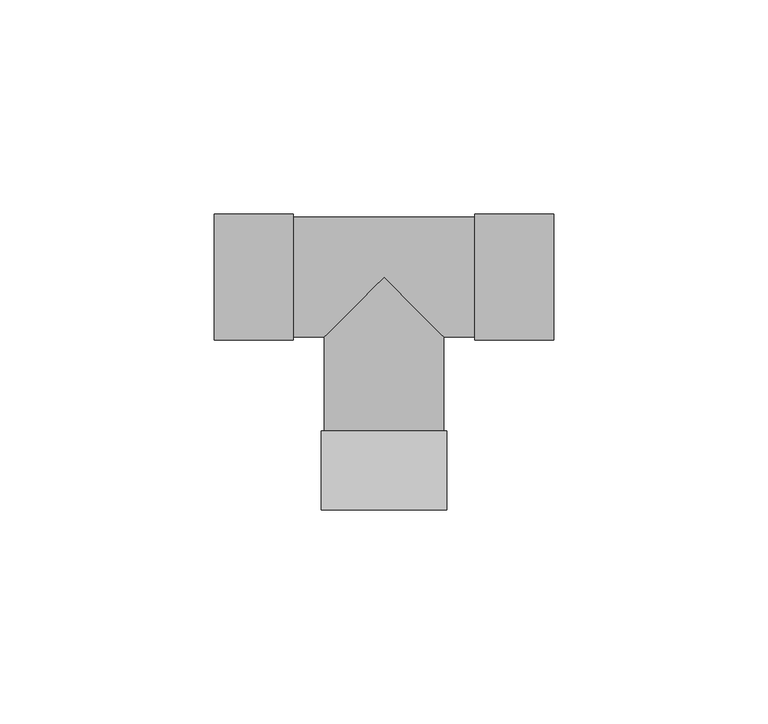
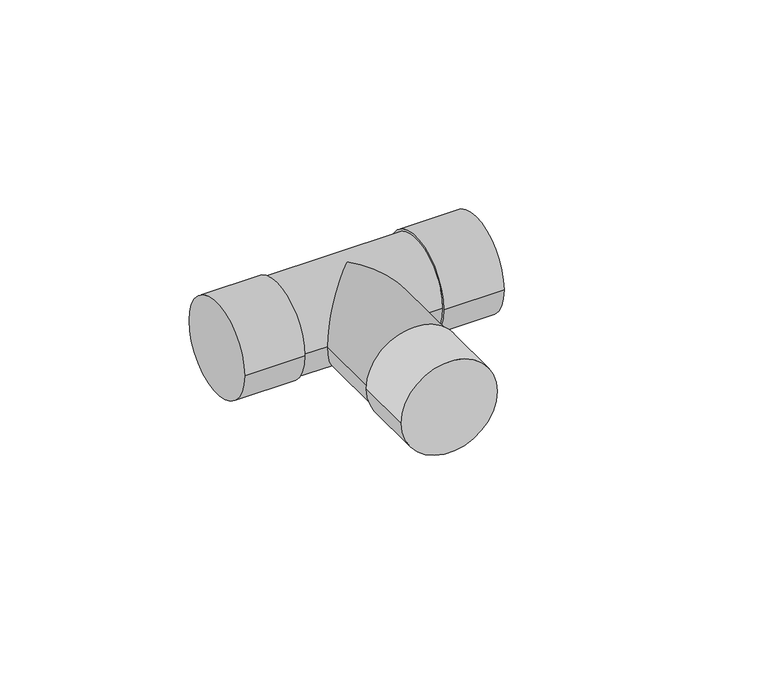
"""IFC4 building model written with IfcOpenShell, lengths in millimetres: pipe fitting geometry, Tê - Soldado - CU : Padrão."""

from ifc_helpers import new_model, si_unit, frame, origin, place, context, project, spatial, circle_curve, ellipse_curve, source, transform, mapped, element, save
from ifc_brep_helpers import plane_surface, cylinder_surface, advanced_brep


def pipe_fitting_81a84823(model_context):
    return source(origin(), model_context, "Body", "AdvancedBrep", [
        advanced_brep(
        [(14.6995662, -54.3501173, 0.0), (-14.7004338, -54.3498827, 0.0), (14.699713, -35.9501173, 0.0), (-14.700287, -35.9498827, 0.0), (13.999713, -35.9501117, 0.0), (-14.000287, -35.9498882, 0.0), (-39.62, -14.7, 0.0), (-39.62, 14.7, 0.0), (-21.22, -14.7, 0.0), (-21.22, 14.7, 0.0), (-21.22, -14.0, 0.0), (-21.22, 14.0, 0.0), (21.22, 14.0, 0.0), (-14.0001118, -14.0, 0.0), (0.0, 0.0, 14.0), (13.9998882, -14.0, 0.0), (21.22, -14.0, 0.0), (0.0, 0.0, -14.0), (21.22, -14.7, 0.0), (21.22, 14.7, 0.0), (39.62, -14.7, 0.0), (39.62, 14.7, 0.0)],
        [
            (0, 1, circle_curve(frame((-0.0004338, -54.35, 0.0), z_axis=(-7.982217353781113e-06, -0.9999999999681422, 0.0), x_axis=(-0.9999999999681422, 7.982217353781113e-06, 0.0)), 14.7)),
            (1, 0, circle_curve(frame((-0.0004338, -54.35, 0.0), z_axis=(-7.982217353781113e-06, -0.9999999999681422, 0.0), x_axis=(-0.9999999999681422, 7.982217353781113e-06, 0.0)), 14.7)),
            (2, 3, circle_curve(frame((-0.000287, -35.95, 0.0), z_axis=(7.982217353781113e-06, 0.9999999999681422, 0.0), x_axis=(-0.9999999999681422, 7.982217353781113e-06, 0.0)), 14.7)),
            (3, 2, circle_curve(frame((-0.000287, -35.95, 0.0), z_axis=(7.982217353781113e-06, 0.9999999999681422, 0.0), x_axis=(-0.9999999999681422, 7.982217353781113e-06, 0.0)), 14.7)),
            (4, 5, circle_curve(frame((-0.000287, -35.95, 0.0), z_axis=(-7.982217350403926e-06, -0.9999999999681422, 0.0), x_axis=(0.9999999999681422, -7.982217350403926e-06, 0.0)), 14.0)),
            (5, 4, circle_curve(frame((-0.000287, -35.95, 0.0), z_axis=(-7.982217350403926e-06, -0.9999999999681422, 0.0), x_axis=(0.9999999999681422, -7.982217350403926e-06, 0.0)), 14.0)),
            (0, 2),
            (3, 1),
            (6, 7, circle_curve(frame((-39.62, 0.0, 0.0), z_axis=(-1.0, 0.0, 0.0), x_axis=(0.0, 1.0, 0.0)), 14.7)),
            (7, 6, circle_curve(frame((-39.62, 0.0, 0.0), z_axis=(-1.0, 0.0, 0.0), x_axis=(0.0, 1.0, 0.0)), 14.7)),
            (8, 9, circle_curve(frame((-21.22, 0.0, 0.0), z_axis=(1.0, 0.0, 0.0), x_axis=(0.0, 1.0, 0.0)), 14.7)),
            (9, 8, circle_curve(frame((-21.22, 0.0, 0.0), z_axis=(1.0, 0.0, 0.0), x_axis=(0.0, 1.0, 0.0)), 14.7)),
            (10, 11, circle_curve(frame((-21.22, 0.0, 0.0), z_axis=(-1.0, 0.0, 0.0), x_axis=(0.0, 1.0, 0.0)), 14.0)),
            (11, 10, circle_curve(frame((-21.22, 0.0, 0.0), z_axis=(-1.0, 0.0, 0.0), x_axis=(0.0, 1.0, 0.0)), 14.0)),
            (6, 8),
            (9, 7),
            (12, 11),
            (10, 13),
            (13, 14, ellipse_curve(frame((0.0, 0.0, 0.0), z_axis=(-0.7071039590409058, 0.7071096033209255, 0.0), x_axis=(-0.7071096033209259, -0.707103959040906, 0.0)), 19.7990689, 14.0)),
            (14, 15, ellipse_curve(frame((0.0, 0.0, 0.0), z_axis=(0.7071096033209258, 0.7071039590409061, 0.0), x_axis=(-0.7071039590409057, 0.7071096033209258, 0.0)), 19.7989109, 14.0)),
            (15, 16),
            (16, 12, circle_curve(frame((21.22, 0.0, 0.0), z_axis=(-1.0, 0.0, 0.0), x_axis=(0.0, 1.0, 0.0)), 14.0)),
            (12, 16, circle_curve(frame((21.22, 0.0, 0.0), z_axis=(-1.0, 0.0, 0.0), x_axis=(0.0, 1.0, 0.0)), 14.0)),
            (15, 17, ellipse_curve(frame((0.0, 0.0, 0.0), z_axis=(0.7071096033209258, 0.7071039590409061, 0.0), x_axis=(-0.7071039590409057, 0.7071096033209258, 0.0)), 19.7989109, 14.0)),
            (17, 13, ellipse_curve(frame((0.0, 0.0, 0.0), z_axis=(-0.7071039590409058, 0.7071096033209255, 0.0), x_axis=(-0.7071096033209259, -0.707103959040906, 0.0)), 19.7990689, 14.0)),
            (18, 19, circle_curve(frame((21.22, 0.0, 0.0), z_axis=(-1.0, 0.0, 0.0), x_axis=(0.0, 1.0, 0.0)), 14.7)),
            (19, 18, circle_curve(frame((21.22, 0.0, 0.0), z_axis=(-1.0, 0.0, 0.0), x_axis=(0.0, 1.0, 0.0)), 14.7)),
            (20, 21, circle_curve(frame((39.62, 0.0, 0.0), z_axis=(1.0, 0.0, 0.0), x_axis=(0.0, 1.0, 0.0)), 14.7)),
            (21, 20, circle_curve(frame((39.62, 0.0, 0.0), z_axis=(1.0, 0.0, 0.0), x_axis=(0.0, 1.0, 0.0)), 14.7)),
            (18, 20),
            (21, 19),
            (4, 15),
            (13, 5),
        ],
        [
            plane_surface(frame((-0.0004338, -54.35, 0.0), z_axis=(-7.982217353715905e-06, -0.9999999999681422, 0.0), x_axis=(0.0, 0.0, 1.0))),
            plane_surface(frame((-0.000287, -35.95, 0.0), z_axis=(7.982217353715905e-06, 0.9999999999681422, 0.0), x_axis=(0.0, 0.0, 1.0))),
            cylinder_surface(frame((-0.0004338, -54.35, 0.0), z_axis=(-7.982217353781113e-06, -0.9999999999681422, 0.0), x_axis=(-0.9999999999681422, 7.982217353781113e-06, 0.0)), 14.7),
            plane_surface(frame((-39.62, 0.0, 0.0), z_axis=(-1.0, 0.0, 0.0), x_axis=(0.0, 0.0, 1.0))),
            plane_surface(frame((-21.22, 0.0, 0.0), z_axis=(1.0, 0.0, 0.0), x_axis=(0.0, 0.0, 1.0))),
            cylinder_surface(frame((-39.62, 0.0, 0.0), z_axis=(-1.0, 0.0, 0.0), x_axis=(0.0, 1.0, 0.0)), 14.7),
            cylinder_surface(frame((-21.22, 0.0, 0.0), z_axis=(-1.0, 0.0, 0.0), x_axis=(0.0, 1.0, 0.0)), 14.0),
            plane_surface(frame((21.22, 0.0, 0.0), z_axis=(-1.0, 0.0, 0.0), x_axis=(0.0, 0.0, 1.0))),
            plane_surface(frame((39.62, 0.0, 0.0), z_axis=(1.0, 0.0, 0.0), x_axis=(0.0, 0.0, 1.0))),
            cylinder_surface(frame((21.22, 0.0, 0.0), z_axis=(-1.0, 0.0, 0.0), x_axis=(0.0, 1.0, 0.0)), 14.7),
            cylinder_surface(frame((0.0, 0.0, 0.0), z_axis=(7.982217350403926e-06, 0.9999999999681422, 0.0), x_axis=(0.9999999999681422, -7.982217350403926e-06, 0.0)), 14.0),
        ],
        [
            (0, [[1, 2]]),
            (1, [[3, 4], [5, 6]]),
            (2, [[-1, 7, -4, 8]]),
            (2, [[-2, -8, -3, -7]]),
            (3, [[9, 10]]),
            (4, [[11, 12], [13, 14]]),
            (5, [[-9, 15, -12, 16]]),
            (5, [[-10, -16, -11, -15]]),
            (6, [[17, -13, 18, 19, 20, 21, 22]]),
            (6, [[-17, 23, -21, 24, 25, -18, -14]]),
            (7, [[26, 27], [-22, -23]]),
            (8, [[28, 29]]),
            (9, [[-26, 30, -29, 31]]),
            (9, [[-27, -31, -28, -30]]),
            (10, [[32, -20, -19, 33, -5]]),
            (10, [[-32, -6, -33, -25, -24]]),
        ],
    ),
    ])


if __name__ == "__main__":
    model = new_model("IFC4")
    model_context = context("Model", 3, world=origin())
    ifc_project = project(units=[si_unit("LENGTHUNIT", "METRE", prefix="MILLI")], contexts=[model_context])
    site = spatial("IfcSite", under=ifc_project)
    building = spatial("IfcBuilding", under=site)
    placement = place(None, origin())
    pipe_fitting_shape = pipe_fitting_81a84823(model_context)
    element("IfcPipeFitting", 1, ObjectType="Tê - Soldado - CU : Padrão", at=placement, inside=building, context=model_context, shape_type="MappedRepresentation", body=[
        mapped(pipe_fitting_shape, transform((0.0, 0.0, 0.0), x_axis=(1.0, 0.0, 0.0), y_axis=(0.0, 1.0, 0.0), z_axis=(0.0, 0.0, 1.0))),
    ])
    save(model, "model.ifc")
